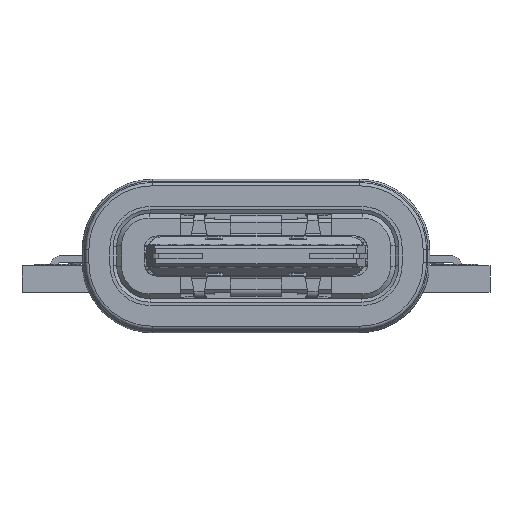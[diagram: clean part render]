
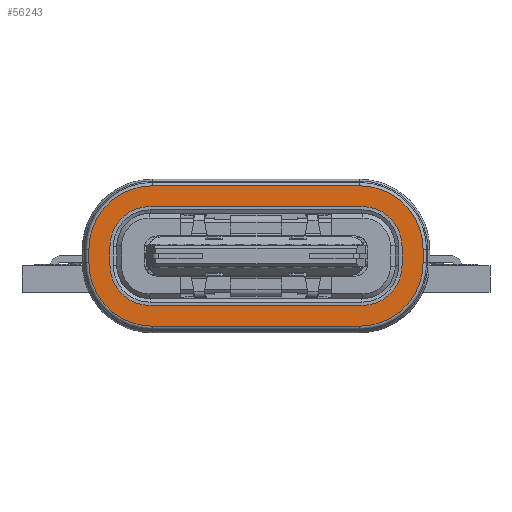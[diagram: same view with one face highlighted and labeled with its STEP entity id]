
A CAD part, front view. The second image highlights one B-rep face of the part: STEP entity #56243.
In plain terms, the highlighted planar face has unit normal (0, -1, 0) as drawn and (0, 0, -1) by its records, which use the part's own axes.
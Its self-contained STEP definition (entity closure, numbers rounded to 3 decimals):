
#56064=CARTESIAN_POINT('',(3.1,1.4,-0.4));
#56065=VERTEX_POINT('',#56064);
#56066=CARTESIAN_POINT('',(4.3,0.2,-0.4));
#56067=VERTEX_POINT('',#56066);
#56068=CARTESIAN_POINT('',(3.1,0.2,-0.4));
#56069=DIRECTION('',(0.0,0.0,-1.0));
#56070=DIRECTION('',(0.0,1.0,0.0));
#56071=AXIS2_PLACEMENT_3D('',#56068,#56069,#56070);
#56072=CIRCLE('',#56071,1.2);
#56073=EDGE_CURVE('no 56762',#56065,#56067,#56072,.T.);
#56108=CARTESIAN_POINT('',(-4.3,0.2,-0.4));
#56109=VERTEX_POINT('',#56108);
#56110=CARTESIAN_POINT('',(-3.1,1.4,-0.4));
#56111=VERTEX_POINT('',#56110);
#56112=CARTESIAN_POINT('',(-3.1,0.2,-0.4));
#56113=DIRECTION('',(0.0,0.0,-1.0));
#56114=DIRECTION('',(-1.0,0.0,0.0));
#56115=AXIS2_PLACEMENT_3D('',#56112,#56113,#56114);
#56116=CIRCLE('',#56115,1.2);
#56117=EDGE_CURVE('no 48041',#56109,#56111,#56116,.T.);
#56118=ORIENTED_EDGE('no 23643',*,*,#56117,.F.);
#56119=CARTESIAN_POINT('',(-4.3,-0.2,-0.4));
#56120=VERTEX_POINT('',#56119);
#56121=CARTESIAN_POINT('',(-4.3,0.2,-0.4));
#56122=DIRECTION('',(0.0,-1.0,0.0));
#56123=VECTOR('',#56122,1.0);
#56124=LINE('',#56121,#56123);
#56125=EDGE_CURVE('no 22160',#56109,#56120,#56124,.T.);
#56126=ORIENTED_EDGE('no 29275',*,*,#56125,.T.);
#56127=CARTESIAN_POINT('',(-3.1,-1.4,-0.4));
#56128=VERTEX_POINT('',#56127);
#56129=CARTESIAN_POINT('',(-3.1,-0.2,-0.4));
#56130=DIRECTION('',(0.0,0.0,-1.0));
#56131=DIRECTION('',(0.0,-1.0,0.0));
#56132=AXIS2_PLACEMENT_3D('',#56129,#56130,#56131);
#56133=CIRCLE('',#56132,1.2);
#56134=EDGE_CURVE('no 52446',#56128,#56120,#56133,.T.);
#56135=ORIENTED_EDGE('no 20810',*,*,#56134,.F.);
#56136=CARTESIAN_POINT('',(3.1,-1.4,-0.4));
#56137=VERTEX_POINT('',#56136);
#56138=CARTESIAN_POINT('',(-3.1,-1.4,-0.4));
#56139=DIRECTION('',(1.0,0.0,0.0));
#56140=VECTOR('',#56139,1.0);
#56141=LINE('',#56138,#56140);
#56142=EDGE_CURVE('no 53664',#56128,#56137,#56141,.T.);
#56143=ORIENTED_EDGE('no 7918',*,*,#56142,.T.);
#56144=CARTESIAN_POINT('',(4.3,-0.2,-0.4));
#56145=VERTEX_POINT('',#56144);
#56146=CARTESIAN_POINT('',(3.1,-0.2,-0.4));
#56147=DIRECTION('',(0.0,0.0,-1.0));
#56148=DIRECTION('',(1.0,0.0,0.0));
#56149=AXIS2_PLACEMENT_3D('',#56146,#56147,#56148);
#56150=CIRCLE('',#56149,1.2);
#56151=EDGE_CURVE('no 42270',#56145,#56137,#56150,.T.);
#56152=ORIENTED_EDGE('no 54342',*,*,#56151,.F.);
#56153=CARTESIAN_POINT('',(4.3,-0.2,-0.4));
#56154=DIRECTION('',(0.0,1.0,0.0));
#56155=VECTOR('',#56154,1.0);
#56156=LINE('',#56153,#56155);
#56157=EDGE_CURVE('no 52079',#56145,#56067,#56156,.T.);
#56158=ORIENTED_EDGE('no 44148',*,*,#56157,.T.);
#56159=ORIENTED_EDGE('no 17049',*,*,#56073,.F.);
#56160=CARTESIAN_POINT('',(3.1,1.4,-0.4));
#56161=DIRECTION('',(-1.0,0.0,0.0));
#56162=VECTOR('',#56161,1.0);
#56163=LINE('',#56160,#56162);
#56164=EDGE_CURVE('no 50518',#56065,#56111,#56163,.T.);
#56165=ORIENTED_EDGE('no 5928',*,*,#56164,.T.);
#56166=EDGE_LOOP('',(#56118,#56126,#56135,#56143,#56152,#56158,#56159,#56165));
#56167=FACE_BOUND('',#56166,.T.);
#56168=CARTESIAN_POINT('',(5.0,0.2,-0.4));
#56169=VERTEX_POINT('',#56168);
#56170=CARTESIAN_POINT('',(3.1,2.1,-0.4));
#56171=VERTEX_POINT('',#56170);
#56172=CARTESIAN_POINT('',(3.1,0.2,-0.4));
#56173=DIRECTION('',(0.0,0.0,1.0));
#56174=DIRECTION('',(1.0,0.0,0.0));
#56175=AXIS2_PLACEMENT_3D('',#56172,#56173,#56174);
#56176=CIRCLE('',#56175,1.9);
#56177=EDGE_CURVE('no 56388',#56169,#56171,#56176,.T.);
#56178=ORIENTED_EDGE('no 54345',*,*,#56177,.F.);
#56179=CARTESIAN_POINT('',(5.0,-0.2,-0.4));
#56180=VERTEX_POINT('',#56179);
#56181=CARTESIAN_POINT('',(5.0,0.2,-0.4));
#56182=DIRECTION('',(0.0,-1.0,0.0));
#56183=VECTOR('',#56182,1.0);
#56184=LINE('',#56181,#56183);
#56185=EDGE_CURVE('no 51457',#56169,#56180,#56184,.T.);
#56186=ORIENTED_EDGE('no 21470',*,*,#56185,.T.);
#56187=CARTESIAN_POINT('',(3.1,-2.1,-0.4));
#56188=VERTEX_POINT('',#56187);
#56189=CARTESIAN_POINT('',(3.1,-0.2,-0.4));
#56190=DIRECTION('',(0.0,0.0,1.0));
#56191=DIRECTION('',(0.0,-1.0,0.0));
#56192=AXIS2_PLACEMENT_3D('',#56189,#56190,#56191);
#56193=CIRCLE('',#56192,1.9);
#56194=EDGE_CURVE('no 16354',#56188,#56180,#56193,.T.);
#56195=ORIENTED_EDGE('no 46413',*,*,#56194,.F.);
#56196=CARTESIAN_POINT('',(-3.1,-2.1,-0.4));
#56197=VERTEX_POINT('',#56196);
#56198=CARTESIAN_POINT('',(3.1,-2.1,-0.4));
#56199=DIRECTION('',(-1.0,0.0,0.0));
#56200=VECTOR('',#56199,1.0);
#56201=LINE('',#56198,#56200);
#56202=EDGE_CURVE('no 27710',#56188,#56197,#56201,.T.);
#56203=ORIENTED_EDGE('no 11306',*,*,#56202,.T.);
#56204=CARTESIAN_POINT('',(-5.0,-0.2,-0.4));
#56205=VERTEX_POINT('',#56204);
#56206=CARTESIAN_POINT('',(-3.1,-0.2,-0.4));
#56207=DIRECTION('',(0.0,0.0,1.0));
#56208=DIRECTION('',(-1.0,0.0,0.0));
#56209=AXIS2_PLACEMENT_3D('',#56206,#56207,#56208);
#56210=CIRCLE('',#56209,1.9);
#56211=EDGE_CURVE('no 37712',#56205,#56197,#56210,.T.);
#56212=ORIENTED_EDGE('no 5948',*,*,#56211,.F.);
#56213=CARTESIAN_POINT('',(-5.0,0.2,-0.4));
#56214=VERTEX_POINT('',#56213);
#56215=CARTESIAN_POINT('',(-5.0,-0.2,-0.4));
#56216=DIRECTION('',(0.0,1.0,0.0));
#56217=VECTOR('',#56216,1.0);
#56218=LINE('',#56215,#56217);
#56219=EDGE_CURVE('no 56107',#56205,#56214,#56218,.T.);
#56220=ORIENTED_EDGE('no 23314',*,*,#56219,.T.);
#56221=CARTESIAN_POINT('',(-3.1,2.1,-0.4));
#56222=VERTEX_POINT('',#56221);
#56223=CARTESIAN_POINT('',(-3.1,0.2,-0.4));
#56224=DIRECTION('',(0.0,-0.0,1.0));
#56225=DIRECTION('',(0.0,1.0,0.0));
#56226=AXIS2_PLACEMENT_3D('',#56223,#56224,#56225);
#56227=CIRCLE('',#56226,1.9);
#56228=EDGE_CURVE('no 2709',#56222,#56214,#56227,.T.);
#56229=ORIENTED_EDGE('no 22586',*,*,#56228,.F.);
#56230=CARTESIAN_POINT('',(-3.1,2.1,-0.4));
#56231=DIRECTION('',(1.0,0.0,0.0));
#56232=VECTOR('',#56231,1.0);
#56233=LINE('',#56230,#56232);
#56234=EDGE_CURVE('no 50887',#56222,#56171,#56233,.T.);
#56235=ORIENTED_EDGE('no 1235',*,*,#56234,.T.);
#56236=EDGE_LOOP('',(#56178,#56186,#56195,#56203,#56212,#56220,#56229,#56235));
#56237=FACE_OUTER_BOUND('',#56236,.T.);
#56238=CARTESIAN_POINT('',(3.1,1.4,-0.4));
#56239=DIRECTION('',(0.0,0.0,1.0));
#56240=DIRECTION('',(1.0,0.0,0.0));
#56241=AXIS2_PLACEMENT_3D('',#56238,#56239,#56240);
#56242=PLANE('',#56241);
#56243=ADVANCED_FACE('no 18977',(#56167,#56237),#56242,.F.);
